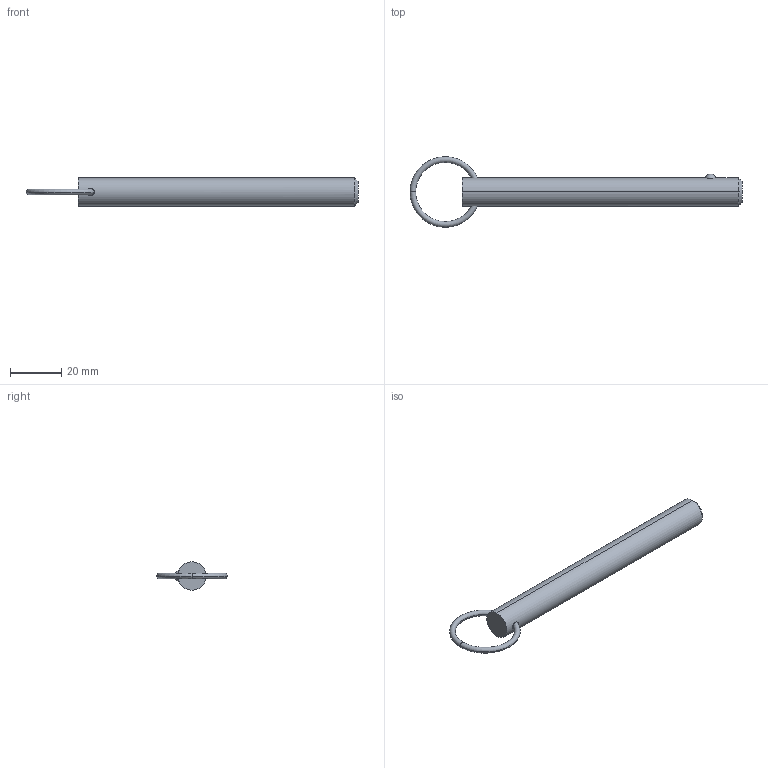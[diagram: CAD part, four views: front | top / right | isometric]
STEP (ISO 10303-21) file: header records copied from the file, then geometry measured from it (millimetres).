
FILE_DESCRIPTION (( 'STEP AP203' ), '1' );
FILE_NAME ('33012.W4335.step', '2024-11-01T14:11:44', ( '' ), ( '' ), 'SwSTEP 2.0', 'SolidWorks 2019', '' );
FILE_SCHEMA (( 'CONFIG_CONTROL_DESIGN' ));
Length unit declared in the file: millimetre
Products named in the file (3): 33012.W4335; Part1_33012.W4335; Part2_33012.W4335
Assembly tree (2 placements, depth 2):
  33012.W4335
    Part1_33012.W4335
    Part2_33012.W4335
Bounding box: 129.93 x 27.62 x 11.11 mm (x, y, z)
Volume: 10838.7 mm3; surface area: 4636.4 mm2
Topology: 2 solids, 2 shells, 16 faces, 31 edges, 18 vertices
Faces by surface type: torus 8, sphere 2, cone 2, cylinder 2, plane 2
Entity records: 863 total; most frequent: CARTESIAN_POINT 220, DIRECTION 88, ORIENTED_EDGE 62, AXIS2_PLACEMENT_3D 42, EDGE_CURVE 31, PERSON_AND_ORGANIZATION 26, CIRCLE 21, LOCAL_TIME 19
